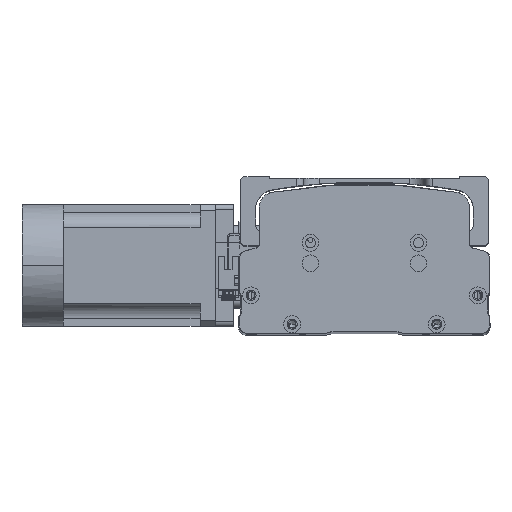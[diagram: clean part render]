
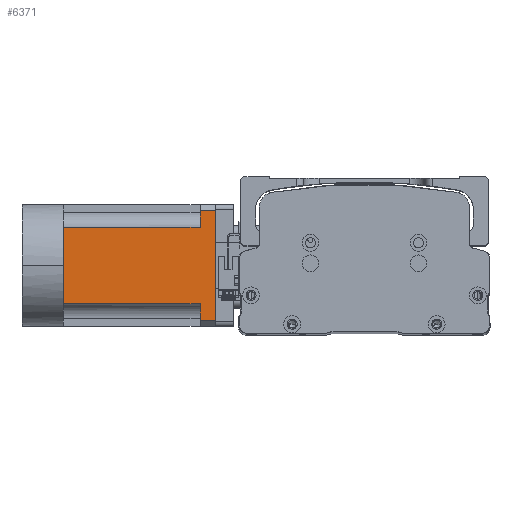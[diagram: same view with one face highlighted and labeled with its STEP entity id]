
A CAD part, top view. The second image highlights one B-rep face of the part: STEP entity #6371.
In plain terms, the highlighted planar face has unit normal (0, -0.003, 1) as drawn and (0, 0, -1) by its records, which use the part's own axes.
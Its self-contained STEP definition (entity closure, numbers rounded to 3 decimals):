
#500 = EDGE_LOOP ( 'NONE', ( #33537, #38162, #11320, #43474, #7280, #46421, #2843, #44614, #34511 ) ) ;
#934 = LINE ( 'NONE', #19234, #27232 ) ;
#991 = CARTESIAN_POINT ( 'NONE',  ( -25., -27., -40. ) ) ;
#1607 = CARTESIAN_POINT ( 'NONE',  ( -40., 90., -40. ) ) ;
#2081 = CARTESIAN_POINT ( 'NONE',  ( -25., 90., -40. ) ) ;
#2549 = EDGE_CURVE ( 'NONE', #30937, #6829, #11751, .T. ) ;
#2824 = DIRECTION ( 'NONE',  ( 0., -1., 0. ) ) ;
#2843 = ORIENTED_EDGE ( 'NONE', *, *, #26888, .T. ) ;
#3057 = CARTESIAN_POINT ( 'NONE',  ( 36., 90., -40. ) ) ;
#3515 = DIRECTION ( 'NONE',  ( 0., 0., -1. ) ) ;
#5100 = DIRECTION ( 'NONE',  ( -1., 0., 0. ) ) ;
#6371 = ADVANCED_FACE ( 'NONE', ( #6940 ), #46391, .T. ) ;
#6608 = DIRECTION ( 'NONE',  ( -1., 0., 0. ) ) ;
#6829 = VERTEX_POINT ( 'NONE', #10799 ) ;
#6940 = FACE_OUTER_BOUND ( 'NONE', #500, .T. ) ;
#7280 = ORIENTED_EDGE ( 'NONE', *, *, #40970, .T. ) ;
#8139 = EDGE_CURVE ( 'NONE', #26649, #30937, #13939, .T. ) ;
#8681 = CARTESIAN_POINT ( 'NONE',  ( -36., -27., -40. ) ) ;
#8771 = DIRECTION ( 'NONE',  ( -1., 0., 0. ) ) ;
#9364 = EDGE_CURVE ( 'NONE', #30152, #22852, #23235, .T. ) ;
#10521 = CARTESIAN_POINT ( 'NONE',  ( -40., -27., -40. ) ) ;
#10636 = VECTOR ( 'NONE', #17431, 1000. ) ;
#10799 = CARTESIAN_POINT ( 'NONE',  ( 25., 0., -40. ) ) ;
#11320 = ORIENTED_EDGE ( 'NONE', *, *, #8139, .T. ) ;
#11723 = DIRECTION ( 'NONE',  ( 0., 1., 0. ) ) ;
#11751 = LINE ( 'NONE', #21038, #10636 ) ;
#12114 = CARTESIAN_POINT ( 'NONE',  ( -40., 0., -40. ) ) ;
#13383 = LINE ( 'NONE', #8681, #42006 ) ;
#13663 = VECTOR ( 'NONE', #5100, 1000. ) ;
#13939 = LINE ( 'NONE', #1607, #19007 ) ;
#15982 = LINE ( 'NONE', #31453, #43488 ) ;
#17391 = EDGE_CURVE ( 'NONE', #22898, #41611, #13383, .T. ) ;
#17431 = DIRECTION ( 'NONE',  ( 0., -1., 0. ) ) ;
#18571 = EDGE_CURVE ( 'NONE', #29781, #26649, #15982, .T. ) ;
#19007 = VECTOR ( 'NONE', #8771, 1000. ) ;
#19234 = CARTESIAN_POINT ( 'NONE',  ( -40., 0., -40. ) ) ;
#20849 = CARTESIAN_POINT ( 'NONE',  ( -40., 90., -40. ) ) ;
#21038 = CARTESIAN_POINT ( 'NONE',  ( 25., -27., -40. ) ) ;
#22811 = LINE ( 'NONE', #20849, #39614 ) ;
#22852 = VERTEX_POINT ( 'NONE', #27120 ) ;
#22898 = VERTEX_POINT ( 'NONE', #34490 ) ;
#23022 = EDGE_CURVE ( 'NONE', #39399, #22898, #22811, .T. ) ;
#23235 = LINE ( 'NONE', #12114, #13663 ) ;
#24223 = EDGE_CURVE ( 'NONE', #29781, #41611, #29908, .T. ) ;
#25453 = CARTESIAN_POINT ( 'NONE',  ( 36., 100., -40. ) ) ;
#26649 = VERTEX_POINT ( 'NONE', #3057 ) ;
#26888 = EDGE_CURVE ( 'NONE', #22852, #39399, #37451, .T. ) ;
#27120 = CARTESIAN_POINT ( 'NONE',  ( -25., 0., -40. ) ) ;
#27232 = VECTOR ( 'NONE', #44313, 1000. ) ;
#27422 = AXIS2_PLACEMENT_3D ( 'NONE', #10521, #3515, #28529 ) ;
#28529 = DIRECTION ( 'NONE',  ( -1., 0., 0. ) ) ;
#29781 = VERTEX_POINT ( 'NONE', #25453 ) ;
#29908 = LINE ( 'NONE', #36099, #38301 ) ;
#30143 = DIRECTION ( 'NONE',  ( 0., 1., 0. ) ) ;
#30152 = VERTEX_POINT ( 'NONE', #37255 ) ;
#30937 = VERTEX_POINT ( 'NONE', #39092 ) ;
#31453 = CARTESIAN_POINT ( 'NONE',  ( 36., -27., -40. ) ) ;
#33537 = ORIENTED_EDGE ( 'NONE', *, *, #24223, .F. ) ;
#34490 = CARTESIAN_POINT ( 'NONE',  ( -36., 90., -40. ) ) ;
#34511 = ORIENTED_EDGE ( 'NONE', *, *, #17391, .T. ) ;
#35007 = CARTESIAN_POINT ( 'NONE',  ( -36., 100., -40. ) ) ;
#36099 = CARTESIAN_POINT ( 'NONE',  ( -40., 100., -40. ) ) ;
#36340 = VECTOR ( 'NONE', #11723, 1000. ) ;
#37255 = CARTESIAN_POINT ( 'NONE',  ( 0., 0., -40. ) ) ;
#37451 = LINE ( 'NONE', #991, #36340 ) ;
#38162 = ORIENTED_EDGE ( 'NONE', *, *, #18571, .T. ) ;
#38301 = VECTOR ( 'NONE', #39676, 1000. ) ;
#39092 = CARTESIAN_POINT ( 'NONE',  ( 25., 90., -40. ) ) ;
#39399 = VERTEX_POINT ( 'NONE', #2081 ) ;
#39614 = VECTOR ( 'NONE', #6608, 1000. ) ;
#39676 = DIRECTION ( 'NONE',  ( -1., 0., 0. ) ) ;
#40970 = EDGE_CURVE ( 'NONE', #6829, #30152, #934, .T. ) ;
#41611 = VERTEX_POINT ( 'NONE', #35007 ) ;
#42006 = VECTOR ( 'NONE', #30143, 1000. ) ;
#43474 = ORIENTED_EDGE ( 'NONE', *, *, #2549, .T. ) ;
#43488 = VECTOR ( 'NONE', #2824, 1000. ) ;
#44313 = DIRECTION ( 'NONE',  ( -1., 0., 0. ) ) ;
#44614 = ORIENTED_EDGE ( 'NONE', *, *, #23022, .T. ) ;
#46391 = PLANE ( 'NONE',  #27422 ) ;
#46421 = ORIENTED_EDGE ( 'NONE', *, *, #9364, .T. ) ;
